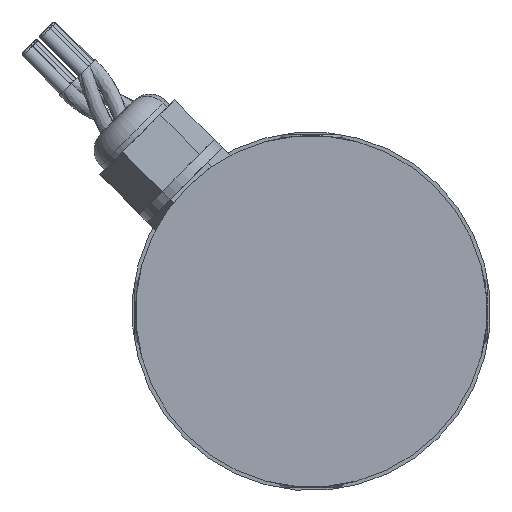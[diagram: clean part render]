
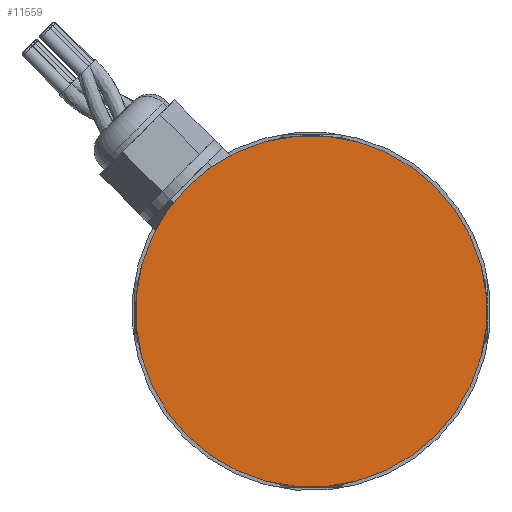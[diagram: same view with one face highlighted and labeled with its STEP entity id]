
A CAD part, left-side view. The second image highlights one B-rep face of the part: STEP entity #11559.
In plain terms, the highlighted planar face has unit normal (-1, 0, 0).
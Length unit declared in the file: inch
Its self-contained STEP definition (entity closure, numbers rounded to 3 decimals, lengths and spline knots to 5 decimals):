
#1545 = DIRECTION ( 'NONE',  ( 0., -0.707, 0.707 ) ) ;
#2394 = DIRECTION ( 'NONE',  ( 1., 0., 0. ) ) ;
#2416 = CARTESIAN_POINT ( 'NONE',  ( -0.32797, 4.61701, 3.56913 ) ) ;
#2712 = FACE_OUTER_BOUND ( 'NONE', #10037, .T. ) ;
#3432 = DIRECTION ( 'NONE',  ( 0., -0.707, 0.707 ) ) ;
#3550 = AXIS2_PLACEMENT_3D ( 'NONE', #6891, #2394, #12493 ) ;
#3838 = EDGE_CURVE ( 'NONE', #6877, #9674, #4838, .T. ) ;
#3890 = ORIENTED_EDGE ( 'NONE', *, *, #3838, .F. ) ;
#3905 = AXIS2_PLACEMENT_3D ( 'NONE', #8869, #7824, #3432 ) ;
#4573 = CARTESIAN_POINT ( 'NONE',  ( -0.32797, 2.40744, 5.7787 ) ) ;
#4638 = EDGE_CURVE ( 'NONE', #9674, #6877, #13191, .T. ) ;
#4838 = CIRCLE ( 'NONE', #3905, 1.5624 ) ;
#6877 = VERTEX_POINT ( 'NONE', #4573 ) ;
#6891 = CARTESIAN_POINT ( 'NONE',  ( -0.32797, 3.51222, 4.67391 ) ) ;
#7174 = PLANE ( 'NONE',  #9785 ) ;
#7264 = CARTESIAN_POINT ( 'NONE',  ( -0.32797, 3.51222, 4.67391 ) ) ;
#7824 = DIRECTION ( 'NONE',  ( 1., 0., 0. ) ) ;
#8869 = CARTESIAN_POINT ( 'NONE',  ( -0.32797, 3.51222, 4.67391 ) ) ;
#9674 = VERTEX_POINT ( 'NONE', #2416 ) ;
#9735 = ORIENTED_EDGE ( 'NONE', *, *, #4638, .F. ) ;
#9785 = AXIS2_PLACEMENT_3D ( 'NONE', #7264, #10231, #1545 ) ;
#10037 = EDGE_LOOP ( 'NONE', ( #9735, #3890 ) ) ;
#10231 = DIRECTION ( 'NONE',  ( 1., 0., 0. ) ) ;
#11559 = ADVANCED_FACE ( 'NONE', ( #2712 ), #7174, .F. ) ;
#12493 = DIRECTION ( 'NONE',  ( 0., -0.707, 0.707 ) ) ;
#13191 = CIRCLE ( 'NONE', #3550, 1.5624 ) ;
